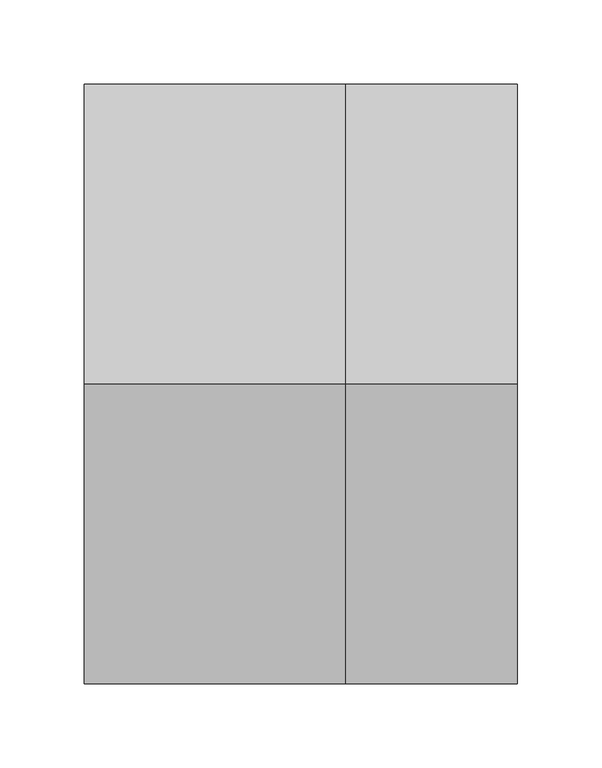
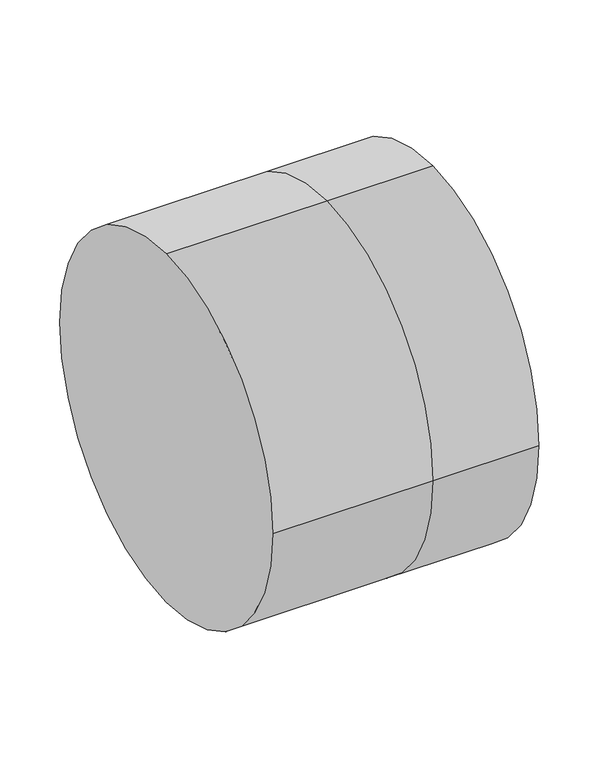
"""IFC4 building model written with IfcOpenShell, lengths in millimetres: duct fitting geometry, M_Encaixe de duto redondo : Padrão."""

from ifc_helpers import new_model, si_unit, frame, origin, place, context, project, spatial, circle_curve, source, transform, mapped, element, save
from ifc_brep_helpers import plane_surface, cylinder_surface, advanced_brep


def duct_fitting_d8e74723(model_context):
    return source(origin(), model_context, "Body", "AdvancedBrep", [
        advanced_brep(
        [(101.6, 0.0, 177.5), (101.6, -177.5, 0.0), (101.6, 0.0, -177.5), (101.6, 177.5, 0.0), (0.0, 177.5, 0.0), (0.0, 0.0, 177.5), (0.0, 0.0, -177.5), (0.0, -177.5, 0.0), (-154.8807698, 0.0, 177.5), (-154.8807698, 177.5, 0.0), (-154.8807698, 0.0, -177.5), (-154.8807698, -177.5, 0.0)],
        [
            (0, 1, circle_curve(frame((101.6, 0.0, 0.0), z_axis=(1.0, 0.0, 0.0), x_axis=(0.0, 1.0, 0.0)), 177.5)),
            (1, 2, circle_curve(frame((101.6, 0.0, 0.0), z_axis=(1.0, 0.0, 0.0), x_axis=(0.0, 1.0, 0.0)), 177.5)),
            (2, 3, circle_curve(frame((101.6, 0.0, 0.0), z_axis=(1.0, 0.0, 0.0), x_axis=(0.0, 1.0, 0.0)), 177.5)),
            (3, 0, circle_curve(frame((101.6, 0.0, 0.0), z_axis=(1.0, 0.0, 0.0), x_axis=(0.0, 1.0, 0.0)), 177.5)),
            (3, 4),
            (4, 5, circle_curve(frame((0.0, 0.0, 0.0), z_axis=(1.0, 0.0, 0.0), x_axis=(0.0, 1.0, 0.0)), 177.5)),
            (5, 0),
            (2, 6),
            (6, 4, circle_curve(frame((0.0, 0.0, 0.0), z_axis=(1.0, 0.0, 0.0), x_axis=(0.0, 1.0, 0.0)), 177.5)),
            (1, 7),
            (7, 6, circle_curve(frame((0.0, 0.0, 0.0), z_axis=(1.0, 0.0, 0.0), x_axis=(0.0, 1.0, 0.0)), 177.5)),
            (5, 7, circle_curve(frame((0.0, 0.0, 0.0), z_axis=(1.0, 0.0, 0.0), x_axis=(0.0, 1.0, 0.0)), 177.5)),
            (8, 9, circle_curve(frame((-154.8807698, 0.0, 0.0), z_axis=(-1.0, 0.0, 0.0), x_axis=(0.0, 1.0, 0.0)), 177.5)),
            (9, 10, circle_curve(frame((-154.8807698, 0.0, 0.0), z_axis=(-1.0, 0.0, 0.0), x_axis=(0.0, 1.0, 0.0)), 177.5)),
            (10, 11, circle_curve(frame((-154.8807698, 0.0, 0.0), z_axis=(-1.0, 0.0, 0.0), x_axis=(0.0, 1.0, 0.0)), 177.5)),
            (11, 8, circle_curve(frame((-154.8807698, 0.0, 0.0), z_axis=(-1.0, 0.0, 0.0), x_axis=(0.0, 1.0, 0.0)), 177.5)),
            (8, 5),
            (4, 9),
            (6, 10),
            (7, 11),
        ],
        [
            plane_surface(frame((101.6, 0.0, 0.0), z_axis=(1.0, 0.0, 0.0), x_axis=(0.0, 0.0, 1.0))),
            cylinder_surface(frame((0.0, 0.0, 0.0), z_axis=(-1.0, 0.0, 0.0), x_axis=(0.0, 1.0, 0.0)), 177.5),
            plane_surface(frame((-154.8807698, 0.0, 0.0), z_axis=(-1.0, 0.0, 0.0), x_axis=(0.0, 0.0, 1.0))),
            cylinder_surface(frame((-154.8807698, 0.0, 0.0), z_axis=(-1.0, 0.0, 0.0), x_axis=(0.0, 1.0, 0.0)), 177.5),
        ],
        [
            (0, [[1, 2, 3, 4]]),
            (1, [[-4, 5, 6, 7]]),
            (1, [[-3, 8, 9, -5]]),
            (1, [[-2, 10, 11, -8]]),
            (1, [[-1, -7, 12, -10]]),
            (2, [[13, 14, 15, 16]]),
            (3, [[-13, 17, -6, 18]]),
            (3, [[-14, -18, -9, 19]]),
            (3, [[-15, -19, -11, 20]]),
            (3, [[-16, -20, -12, -17]]),
        ],
    ),
    ])


if __name__ == "__main__":
    model = new_model("IFC4")
    model_context = context("Model", 3, world=origin())
    ifc_project = project(units=[si_unit("LENGTHUNIT", "METRE", prefix="MILLI")], contexts=[model_context])
    site = spatial("IfcSite", under=ifc_project)
    building = spatial("IfcBuilding", under=site)
    placement = place(None, origin())
    duct_fitting_shape = duct_fitting_d8e74723(model_context)
    element("IfcDuctFitting", 1, ObjectType="M_Encaixe de duto redondo : Padrão", at=placement, inside=building, context=model_context, shape_type="MappedRepresentation", body=[
        mapped(duct_fitting_shape, transform((0.0, 0.0, 0.0), x_axis=(1.0, 0.0, 0.0), y_axis=(0.0, 1.0, 0.0), z_axis=(0.0, 0.0, 1.0))),
    ])
    save(model, "model.ifc")
